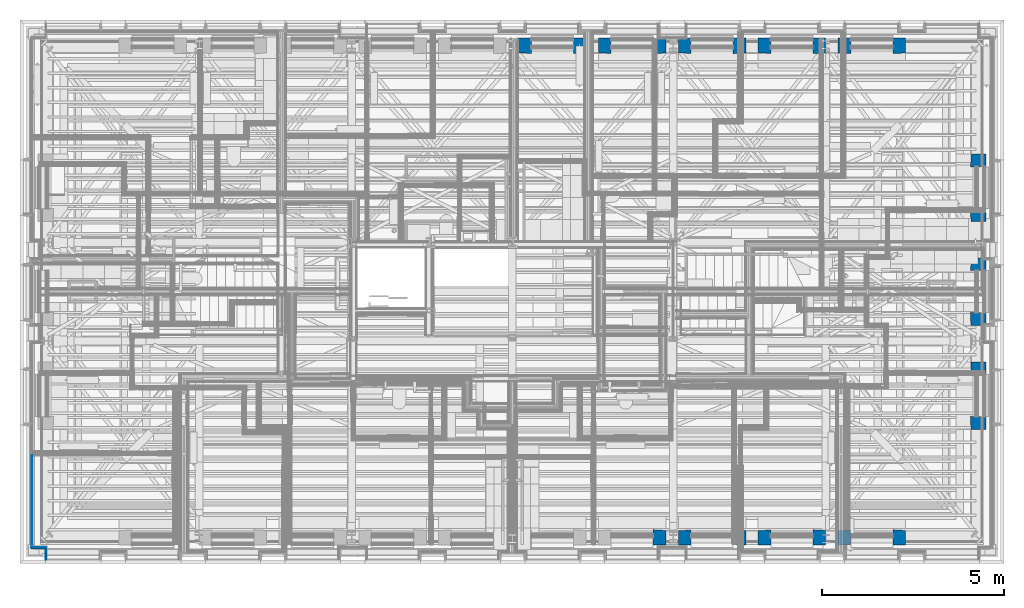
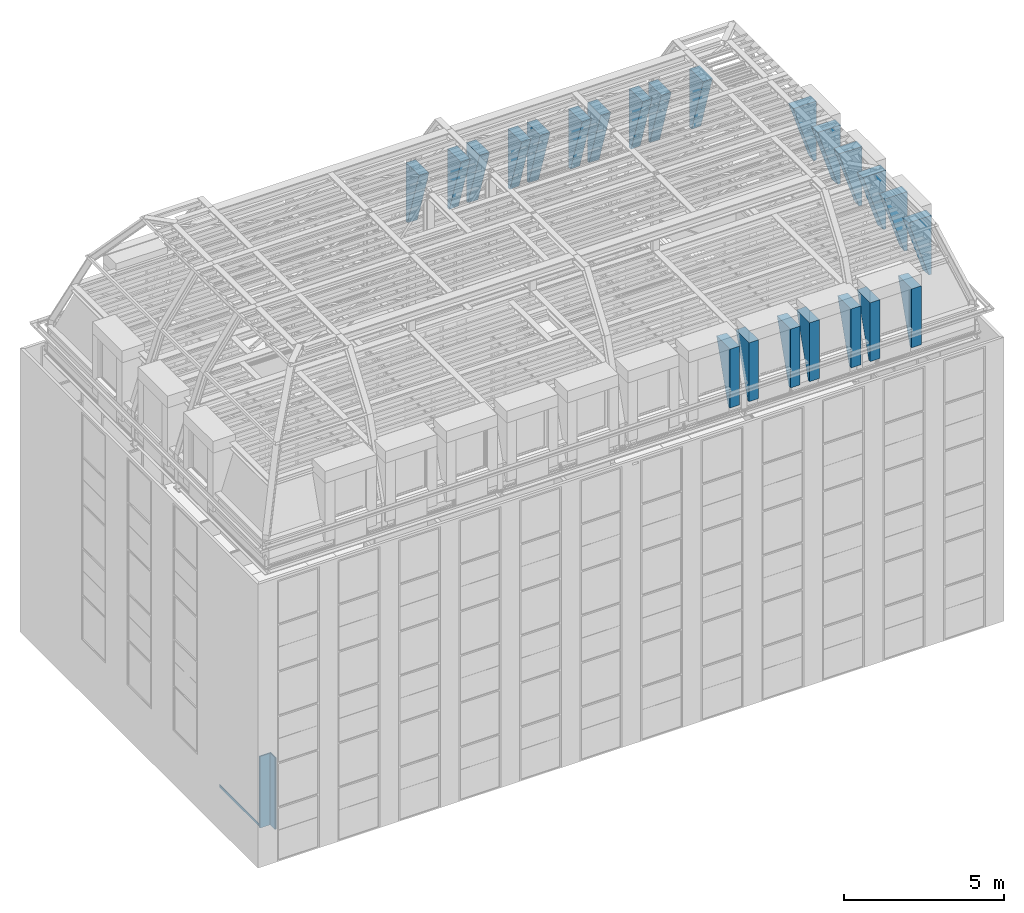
# One storey, part 25 of 183: 23 walls, 5 building element parts, 3 elements without a shape of their own.
"""IFC2X3 building model written with IfcOpenShell, lengths in metres."""

from ifc_helpers import new_model, entity, si_unit, converted_unit, derived_unit, money_unit, direction, frame, frame_2d, origin_with_axes, place, context, subcontext, project, spatial, polyline, rectangle, outline, extrude, faceted_brep, material, type_object, element, aggregate, save


model = new_model("IFC2X3")

# Units and contexts
model_context = context("Model", 3, precision=1e-05, world=origin_with_axes(), true_north=direction((0.0, 1.0)))
body_context = subcontext(model_context, "Body", "Model", "MODEL_VIEW", scale=1.0)
ifc_project = project(units=[si_unit("LENGTHUNIT", "METRE"), si_unit("AREAUNIT", "SQUARE_METRE"), si_unit("VOLUMEUNIT", "CUBIC_METRE"), si_unit("ABSORBEDDOSEUNIT", "GRAY"), si_unit("AMOUNTOFSUBSTANCEUNIT", "MOLE"), si_unit("DOSEEQUIVALENTUNIT", "SIEVERT"), si_unit("ELECTRICCAPACITANCEUNIT", "FARAD"), si_unit("ELECTRICCHARGEUNIT", "COULOMB"), si_unit("ELECTRICCONDUCTANCEUNIT", "SIEMENS"), si_unit("ELECTRICCURRENTUNIT", "AMPERE"), si_unit("ELECTRICRESISTANCEUNIT", "OHM"), si_unit("ELECTRICVOLTAGEUNIT", "VOLT"), si_unit("ENERGYUNIT", "JOULE"), si_unit("FORCEUNIT", "NEWTON"), si_unit("FREQUENCYUNIT", "HERTZ"), si_unit("ILLUMINANCEUNIT", "LUX"), si_unit("INDUCTANCEUNIT", "HENRY"), si_unit("LUMINOUSFLUXUNIT", "LUMEN"), si_unit("LUMINOUSINTENSITYUNIT", "CANDELA"), si_unit("MAGNETICFLUXDENSITYUNIT", "TESLA"), si_unit("MAGNETICFLUXUNIT", "WEBER"), si_unit("MASSUNIT", "GRAM"), converted_unit("PLANEANGLEUNIT", "degree", entity("IfcReal", 0.0174532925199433), si_unit("PLANEANGLEUNIT", "RADIAN"), dimensions=[0, 0, 0, 0, 0, 0, 0]), si_unit("POWERUNIT", "WATT"), si_unit("PRESSUREUNIT", "PASCAL"), si_unit("RADIOACTIVITYUNIT", "BECQUEREL"), si_unit("SOLIDANGLEUNIT", "STERADIAN"), si_unit("THERMODYNAMICTEMPERATUREUNIT", "KELVIN"), si_unit("TIMEUNIT", "SECOND"), derived_unit("ACCELERATIONUNIT", [(si_unit("LENGTHUNIT", "METRE"), 1), (si_unit("TIMEUNIT", "SECOND"), -2)]), derived_unit("ANGULARVELOCITYUNIT", [(converted_unit("PLANEANGLEUNIT", "degree", entity("IfcReal", 0.0174532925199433), si_unit("PLANEANGLEUNIT", "RADIAN"), dimensions=[0, 0, 0, 0, 0, 0, 0]), 1), (si_unit("TIMEUNIT", "SECOND"), -1)]), derived_unit("CURVATUREUNIT", [(converted_unit("PLANEANGLEUNIT", "degree", entity("IfcReal", 0.0174532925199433), si_unit("PLANEANGLEUNIT", "RADIAN"), dimensions=[0, 0, 0, 0, 0, 0, 0]), 1), (si_unit("LENGTHUNIT", "METRE"), -1)]), derived_unit("DYNAMICVISCOSITYUNIT", [(si_unit("PRESSUREUNIT", "PASCAL"), 1), (si_unit("TIMEUNIT", "SECOND"), 1)]), derived_unit("HEATFLUXDENSITYUNIT", [(si_unit("POWERUNIT", "WATT"), 1), (si_unit("LENGTHUNIT", "METRE"), -2)]), derived_unit("HEATINGVALUEUNIT", [(si_unit("ENERGYUNIT", "JOULE"), 1), (si_unit("MASSUNIT", "GRAM"), -1)]), derived_unit("INTEGERCOUNTRATEUNIT", [(si_unit("TIMEUNIT", "SECOND"), -1)]), derived_unit("IONCONCENTRATIONUNIT", [(si_unit("MASSUNIT", "GRAM"), 1), (si_unit("VOLUMEUNIT", "CUBIC_METRE"), -1)]), derived_unit("ISOTHERMALMOISTURECAPACITYUNIT", [(si_unit("VOLUMEUNIT", "CUBIC_METRE"), 1), (si_unit("MASSUNIT", "GRAM"), -1)]), derived_unit("KINEMATICVISCOSITYUNIT", [(si_unit("AREAUNIT", "SQUARE_METRE"), 1), (si_unit("TIMEUNIT", "SECOND"), -1)]), derived_unit("LINEARFORCEUNIT", [(si_unit("FORCEUNIT", "NEWTON"), 1), (si_unit("LENGTHUNIT", "METRE"), -1)]), derived_unit("LINEARMOMENTUNIT", [(si_unit("FORCEUNIT", "NEWTON"), 1), (si_unit("LENGTHUNIT", "METRE"), -1)]), derived_unit("LINEARSTIFFNESSUNIT", [(si_unit("FORCEUNIT", "NEWTON"), 1), (si_unit("LENGTHUNIT", "METRE"), -1)]), derived_unit("LINEARVELOCITYUNIT", [(si_unit("LENGTHUNIT", "METRE"), 1), (si_unit("TIMEUNIT", "SECOND"), -1)]), derived_unit("LUMINOUSINTENSITYDISTRIBUTIONUNIT", [(si_unit("LUMINOUSINTENSITYUNIT", "CANDELA"), 1), (si_unit("LUMINOUSFLUXUNIT", "LUMEN"), -1)]), derived_unit("MASSDENSITYUNIT", [(si_unit("MASSUNIT", "GRAM"), 1), (si_unit("VOLUMEUNIT", "CUBIC_METRE"), -1)]), derived_unit("MASSFLOWRATEUNIT", [(si_unit("MASSUNIT", "GRAM"), 1), (si_unit("TIMEUNIT", "SECOND"), -1)]), derived_unit("MASSPERLENGTHUNIT", [(si_unit("MASSUNIT", "GRAM"), 1), (si_unit("LENGTHUNIT", "METRE"), -1)]), derived_unit("MODULUSOFELASTICITYUNIT", [(si_unit("FORCEUNIT", "NEWTON"), 1), (si_unit("AREAUNIT", "SQUARE_METRE"), -1)]), derived_unit("MODULUSOFLINEARSUBGRADEREACTIONUNIT", [(si_unit("FORCEUNIT", "NEWTON"), 1), (si_unit("LENGTHUNIT", "METRE"), -2)]), derived_unit("MODULUSOFROTATIONALSUBGRADEREACTIONUNIT", [(si_unit("FORCEUNIT", "NEWTON"), 1), (si_unit("LENGTHUNIT", "METRE"), 1)]), derived_unit("MODULUSOFSUBGRADEREACTIONUNIT", [(si_unit("FORCEUNIT", "NEWTON"), 1), (si_unit("VOLUMEUNIT", "CUBIC_METRE"), -1)]), derived_unit("MOISTUREDIFFUSIVITYUNIT", [(si_unit("VOLUMEUNIT", "CUBIC_METRE"), 1), (si_unit("TIMEUNIT", "SECOND"), -1)]), derived_unit("MOLECULARWEIGHTUNIT", [(si_unit("MASSUNIT", "GRAM"), 1), (si_unit("AMOUNTOFSUBSTANCEUNIT", "MOLE"), -1)]), derived_unit("PLANARFORCEUNIT", [(si_unit("FORCEUNIT", "NEWTON"), 1), (si_unit("LENGTHUNIT", "METRE"), -2)]), derived_unit("ROTATIONALFREQUENCYUNIT", [(si_unit("TIMEUNIT", "SECOND"), -1)]), derived_unit("ROTATIONALMASSUNIT", [(si_unit("MASSUNIT", "GRAM"), 1), (si_unit("LENGTHUNIT", "METRE"), 2)]), derived_unit("ROTATIONALSTIFFNESSUNIT", [(si_unit("FORCEUNIT", "NEWTON"), 1), (si_unit("LENGTHUNIT", "METRE"), 1), (converted_unit("PLANEANGLEUNIT", "degree", entity("IfcReal", 0.0174532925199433), si_unit("PLANEANGLEUNIT", "RADIAN"), dimensions=[0, 0, 0, 0, 0, 0, 0]), -1)]), derived_unit("SECTIONAREAINTEGRALUNIT", [(si_unit("LENGTHUNIT", "METRE"), 5)]), derived_unit("SECTIONMODULUSUNIT", [(si_unit("LENGTHUNIT", "METRE"), 3)]), derived_unit("SHEARMODULUSUNIT", [(si_unit("FORCEUNIT", "NEWTON"), 1), (si_unit("AREAUNIT", "SQUARE_METRE"), -1)]), derived_unit("SOUNDPOWERUNIT", [(si_unit("ENERGYUNIT", "JOULE"), 1), (si_unit("TIMEUNIT", "SECOND"), -1)]), derived_unit("SPECIFICHEATCAPACITYUNIT", [(si_unit("FORCEUNIT", "NEWTON"), 1), (si_unit("MASSUNIT", "GRAM"), -1), (si_unit("THERMODYNAMICTEMPERATUREUNIT", "KELVIN"), -1)]), derived_unit("TEMPERATUREGRADIENTUNIT", [(si_unit("THERMODYNAMICTEMPERATUREUNIT", "KELVIN"), 1), (si_unit("LENGTHUNIT", "METRE"), -1)]), derived_unit("THERMALADMITTANCEUNIT", [(si_unit("POWERUNIT", "WATT"), 1), (si_unit("AREAUNIT", "SQUARE_METRE"), -1), (si_unit("THERMODYNAMICTEMPERATUREUNIT", "KELVIN"), -1)]), derived_unit("THERMALCONDUCTANCEUNIT", [(si_unit("POWERUNIT", "WATT"), 1), (si_unit("LENGTHUNIT", "METRE"), -1), (si_unit("THERMODYNAMICTEMPERATUREUNIT", "KELVIN"), -1)]), derived_unit("THERMALEXPANSIONCOEFFICIENTUNIT", [(si_unit("THERMODYNAMICTEMPERATUREUNIT", "KELVIN"), -1)]), derived_unit("THERMALRESISTANCEUNIT", [(si_unit("AREAUNIT", "SQUARE_METRE"), 1), (si_unit("POWERUNIT", "WATT"), -1)]), derived_unit("THERMALTRANSMITTANCEUNIT", [(si_unit("POWERUNIT", "WATT"), 1), (si_unit("AREAUNIT", "SQUARE_METRE"), -1), (si_unit("THERMODYNAMICTEMPERATUREUNIT", "KELVIN"), -1)]), derived_unit("TORQUEUNIT", [(si_unit("FORCEUNIT", "NEWTON"), 1), (si_unit("LENGTHUNIT", "METRE"), 1)]), derived_unit("VAPORPERMEABILITYUNIT", [(si_unit("MASSUNIT", "GRAM"), 1), (si_unit("TIMEUNIT", "SECOND"), -1)]), derived_unit("VOLUMETRICFLOWRATEUNIT", [(si_unit("VOLUMEUNIT", "CUBIC_METRE"), 1), (si_unit("TIMEUNIT", "SECOND"), -1)]), derived_unit("WARPINGCONSTANTUNIT", [(si_unit("LENGTHUNIT", "METRE"), 6)]), derived_unit("WARPINGMOMENTUNIT", [(si_unit("FORCEUNIT", "NEWTON"), 1), (si_unit("LENGTHUNIT", "METRE"), 2)]), money_unit("GBP")], contexts=[model_context])

# Site, building, storey
site_placement = place(None, origin_with_axes())
site = spatial("IfcSite", under=ifc_project, at=site_placement, Name="Site", CompositionType="ELEMENT")
building_placement = place(site_placement, origin_with_axes())
building = spatial("IfcBuilding", under=site, at=building_placement, Name="Building01", CompositionType="ELEMENT")
storey_placement = place(building_placement, frame((0.0, 0.0, 5.15), z_axis=(0.0, 0.0, 1.0), x_axis=(1.0, 0.0, 0.0)))
storey = spatial("IfcBuildingStorey", under=building, at=storey_placement, Name="1F", CompositionType="ELEMENT", Elevation=5.15)

# Walls
ifc_material_1 = material(Name="A_BSUK_Roofs")
wall_type_1 = type_object("IfcWallType", Name="A-Walls-ExternalBlock", PredefinedType="NOTDEFINED")
wall_1_placement = place(storey_placement, frame((17.709976, 0.499939, 10.03), z_axis=(0.0, 0.0, 1.0), x_axis=(0.0, 1.0, 0.0)))
element("IfcWall", 1, at=wall_1_placement, inside=storey, type_object=wall_type_1, material=ifc_material_1, Name="7C", ObjectType="A-Walls-ExternalBlock", context=body_context, shape_type="Brep", body=[
    faceted_brep([(0.094632, 0.0, 0.0), (0.116713, 0.35, 0.0), (0.847783, 0.35, 2.25), (0.825702, 0.0, 2.25), (0.0, 0.0, 0.0), (0.0, 0.35, 0.0), (0.0, 0.0, 2.25), (0.0, 0.35, 2.25)], [[[0, 1, 2, 3]], [[1, 0, 4, 5]], [[0, 3, 6, 4]], [[2, 1, 5, 7]], [[3, 2, 7, 6]], [[5, 4, 6, 7]]]),
])
wall_2_placement = place(storey_placement, frame((20.590024, 0.499939, 10.03), z_axis=(0.0, 0.0, 1.0), x_axis=(0.0, 1.0, 0.0)))
element("IfcWall", 2, at=wall_2_placement, inside=storey, type_object=wall_type_1, material=ifc_material_1, Name="7C", ObjectType="A-Walls-ExternalBlock", context=body_context, shape_type="Brep", body=[
    faceted_brep([(0.110404, 0.0, 0.0), (0.088324, 0.35, 0.0), (0.819393, 0.35, 2.25), (0.841474, 0.0, 2.25), (0.0, 0.0, 0.0), (0.0, 0.35, 0.0), (0.0, 0.0, 2.25), (0.0, 0.35, 2.25)], [[[0, 1, 2, 3]], [[1, 0, 4, 5]], [[0, 3, 6, 4]], [[2, 1, 5, 7]], [[3, 2, 7, 6]], [[5, 4, 6, 7]]]),
])
wall_3_placement = place(storey_placement, frame((22.089976, 0.499939, 10.03), z_axis=(0.0, 0.0, 1.0), x_axis=(0.0, 1.0, 0.0)))
element("IfcWall", 3, at=wall_3_placement, inside=storey, type_object=wall_type_1, material=ifc_material_1, Name="7C", ObjectType="A-Walls-ExternalBlock", context=body_context, shape_type="Brep", body=[
    faceted_brep([(0.094632, 0.0, 0.0), (0.116713, 0.35, 0.0), (0.847783, 0.35, 2.25), (0.825702, 0.0, 2.25), (0.0, 0.0, 0.0), (0.0, 0.35, 0.0), (0.0, 0.0, 2.25), (0.0, 0.35, 2.25)], [[[0, 1, 2, 3]], [[1, 0, 4, 5]], [[0, 3, 6, 4]], [[2, 1, 5, 7]], [[3, 2, 7, 6]], [[5, 4, 6, 7]]]),
])
wall_4_placement = place(storey_placement, frame((22.780024, 0.499939, 10.03), z_axis=(0.0, 0.0, 1.0), x_axis=(0.0, 1.0, 0.0)))
element("IfcWall", 4, at=wall_4_placement, inside=storey, type_object=wall_type_1, material=ifc_material_1, Name="7C", ObjectType="A-Walls-ExternalBlock", context=body_context, shape_type="Brep", body=[
    faceted_brep([(0.110404, 0.0, 0.0), (0.088324, 0.35, 0.0), (0.819393, 0.35, 2.25), (0.841474, 0.0, 2.25), (0.0, 0.0, 0.0), (0.0, 0.35, 0.0), (0.0, 0.0, 2.25), (0.0, 0.35, 2.25)], [[[0, 1, 2, 3]], [[1, 0, 4, 5]], [[0, 3, 6, 4]], [[2, 1, 5, 7]], [[3, 2, 7, 6]], [[5, 4, 6, 7]]]),
])
wall_5_placement = place(storey_placement, frame((24.279976, 0.499939, 10.03), z_axis=(0.0, 0.0, 1.0), x_axis=(0.0, 1.0, 0.0)))
element("IfcWall", 5, at=wall_5_placement, inside=storey, type_object=wall_type_1, material=ifc_material_1, Name="7C", ObjectType="A-Walls-ExternalBlock", context=body_context, shape_type="Brep", body=[
    faceted_brep([(0.094632, 0.0, 0.0), (0.116713, 0.35, 0.0), (0.847783, 0.35, 2.25), (0.825702, 0.0, 2.25), (0.0, 0.0, 0.0), (0.0, 0.35, 0.0), (0.0, 0.0, 2.25), (0.0, 0.35, 2.25)], [[[0, 1, 2, 3]], [[1, 0, 4, 5]], [[0, 3, 6, 4]], [[2, 1, 5, 7]], [[3, 2, 7, 6]], [[5, 4, 6, 7]]]),
])
wall_6_placement = place(storey_placement, frame((18.400024, 0.499939, 10.03), z_axis=(0.0, 0.0, 1.0), x_axis=(0.0, 1.0, 0.0)))
element("IfcWall", 6, at=wall_6_placement, inside=storey, type_object=wall_type_1, material=ifc_material_1, Name="7C", ObjectType="A-Walls-ExternalBlock", context=body_context, shape_type="Brep", body=[
    faceted_brep([(0.110404, 0.0, 0.0), (0.088324, 0.35, 0.0), (0.819393, 0.35, 2.25), (0.841474, 0.0, 2.25), (0.0, 0.0, 0.0), (0.0, 0.35, 0.0), (0.0, 0.0, 2.25), (0.0, 0.35, 2.25)], [[[0, 1, 2, 3]], [[1, 0, 4, 5]], [[0, 3, 6, 4]], [[2, 1, 5, 7]], [[3, 2, 7, 6]], [[5, 4, 6, 7]]]),
])
wall_7_placement = place(storey_placement, frame((19.899976, 0.499939, 10.03), z_axis=(0.0, 0.0, 1.0), x_axis=(0.0, 1.0, 0.0)))
element("IfcWall", 7, at=wall_7_placement, inside=storey, type_object=wall_type_1, material=ifc_material_1, Name="7C", ObjectType="A-Walls-ExternalBlock", context=body_context, shape_type="Brep", body=[
    faceted_brep([(0.094632, 0.0, 0.0), (0.116713, 0.35, 0.0), (0.847783, 0.35, 2.25), (0.825702, 0.0, 2.25), (0.0, 0.0, 0.0), (0.0, 0.35, 0.0), (0.0, 0.0, 2.25), (0.0, 0.35, 2.25)], [[[0, 1, 2, 3]], [[1, 0, 4, 5]], [[0, 3, 6, 4]], [[2, 1, 5, 7]], [[3, 2, 7, 6]], [[5, 4, 6, 7]]]),
])
wall_8_placement = place(storey_placement, frame((14.020024, 14.400096, 10.03), z_axis=(0.0, 0.0, 1.0), x_axis=(0.0, 1.0, 0.0)))
element("IfcWall", 8, at=wall_8_placement, inside=storey, type_object=wall_type_1, material=ifc_material_1, Name="7C", ObjectType="A-Walls-ExternalBlock", context=body_context, shape_type="Brep", body=[
    faceted_brep([(-0.088324, 0.35, 0.0), (-0.110404, 0.0, 0.0), (-0.841474, 0.0, 2.25), (-0.819393, 0.35, 2.25), (0.0, 0.35, 0.0), (0.0, 0.0, 0.0), (0.0, 0.35, 2.25), (0.0, 0.0, 2.25)], [[[0, 1, 2, 3]], [[1, 0, 4, 5]], [[0, 3, 6, 4]], [[2, 1, 5, 7]], [[3, 2, 7, 6]], [[5, 4, 6, 7]]]),
])
wall_9_placement = place(storey_placement, frame((15.519976, 14.400096, 10.03), z_axis=(0.0, 0.0, 1.0), x_axis=(0.0, 1.0, 0.0)))
element("IfcWall", 9, at=wall_9_placement, inside=storey, type_object=wall_type_1, material=ifc_material_1, Name="7C", ObjectType="A-Walls-ExternalBlock", context=body_context, shape_type="Brep", body=[
    faceted_brep([(-0.116713, 0.35, 0.0), (-0.094632, 0.0, 0.0), (-0.825702, 0.0, 2.25), (-0.847783, 0.35, 2.25), (0.0, 0.35, 0.0), (0.0, 0.0, 0.0), (0.0, 0.35, 2.25), (0.0, 0.0, 2.25)], [[[0, 1, 2, 3]], [[1, 0, 4, 5]], [[0, 3, 6, 4]], [[2, 1, 5, 7]], [[3, 2, 7, 6]], [[5, 4, 6, 7]]]),
])
wall_10_placement = place(storey_placement, frame((16.210024, 14.400096, 10.03), z_axis=(0.0, 0.0, 1.0), x_axis=(0.0, 1.0, 0.0)))
element("IfcWall", 10, at=wall_10_placement, inside=storey, type_object=wall_type_1, material=ifc_material_1, Name="7C", ObjectType="A-Walls-ExternalBlock", context=body_context, shape_type="Brep", body=[
    faceted_brep([(-0.088324, 0.35, 0.0), (-0.110404, 0.0, 0.0), (-0.841474, 0.0, 2.25), (-0.819393, 0.35, 2.25), (0.0, 0.35, 0.0), (0.0, 0.0, 0.0), (0.0, 0.35, 2.25), (0.0, 0.0, 2.25)], [[[0, 1, 2, 3]], [[1, 0, 4, 5]], [[0, 3, 6, 4]], [[2, 1, 5, 7]], [[3, 2, 7, 6]], [[5, 4, 6, 7]]]),
])
wall_11_placement = place(storey_placement, frame((17.709976, 14.400096, 10.03), z_axis=(0.0, 0.0, 1.0), x_axis=(0.0, 1.0, 0.0)))
element("IfcWall", 11, at=wall_11_placement, inside=storey, type_object=wall_type_1, material=ifc_material_1, Name="7C", ObjectType="A-Walls-ExternalBlock", context=body_context, shape_type="Brep", body=[
    faceted_brep([(-0.116713, 0.35, 0.0), (-0.094632, 0.0, 0.0), (-0.825702, 0.0, 2.25), (-0.847783, 0.35, 2.25), (0.0, 0.35, 0.0), (0.0, 0.0, 0.0), (0.0, 0.35, 2.25), (0.0, 0.0, 2.25)], [[[0, 1, 2, 3]], [[1, 0, 4, 5]], [[0, 3, 6, 4]], [[2, 1, 5, 7]], [[3, 2, 7, 6]], [[5, 4, 6, 7]]]),
])
wall_12_placement = place(storey_placement, frame((20.590024, 14.400096, 10.03), z_axis=(0.0, 0.0, 1.0), x_axis=(0.0, 1.0, 0.0)))
element("IfcWall", 12, at=wall_12_placement, inside=storey, type_object=wall_type_1, material=ifc_material_1, Name="7C", ObjectType="A-Walls-ExternalBlock", context=body_context, shape_type="Brep", body=[
    faceted_brep([(-0.088324, 0.35, 0.0), (-0.110404, 0.0, 0.0), (-0.841474, 0.0, 2.25), (-0.819393, 0.35, 2.25), (0.0, 0.35, 0.0), (0.0, 0.0, 0.0), (0.0, 0.35, 2.25), (0.0, 0.0, 2.25)], [[[0, 1, 2, 3]], [[1, 0, 4, 5]], [[0, 3, 6, 4]], [[2, 1, 5, 7]], [[3, 2, 7, 6]], [[5, 4, 6, 7]]]),
])
wall_13_placement = place(storey_placement, frame((22.089976, 14.400096, 10.03), z_axis=(0.0, 0.0, 1.0), x_axis=(0.0, 1.0, 0.0)))
element("IfcWall", 13, at=wall_13_placement, inside=storey, type_object=wall_type_1, material=ifc_material_1, Name="7C", ObjectType="A-Walls-ExternalBlock", context=body_context, shape_type="Brep", body=[
    faceted_brep([(-0.116713, 0.35, 0.0), (-0.094632, 0.0, 0.0), (-0.825702, 0.0, 2.25), (-0.847783, 0.35, 2.25), (0.0, 0.35, 0.0), (0.0, 0.0, 0.0), (0.0, 0.35, 2.25), (0.0, 0.0, 2.25)], [[[0, 1, 2, 3]], [[1, 0, 4, 5]], [[0, 3, 6, 4]], [[2, 1, 5, 7]], [[3, 2, 7, 6]], [[5, 4, 6, 7]]]),
])
wall_14_placement = place(storey_placement, frame((22.780024, 14.400096, 10.03), z_axis=(0.0, 0.0, 1.0), x_axis=(0.0, 1.0, 0.0)))
element("IfcWall", 14, at=wall_14_placement, inside=storey, type_object=wall_type_1, material=ifc_material_1, Name="7C", ObjectType="A-Walls-ExternalBlock", context=body_context, shape_type="Brep", body=[
    faceted_brep([(-0.088324, 0.35, 0.0), (-0.110404, 0.0, 0.0), (-0.841474, 0.0, 2.25), (-0.819393, 0.35, 2.25), (0.0, 0.35, 0.0), (0.0, 0.0, 0.0), (0.0, 0.35, 2.25), (0.0, 0.0, 2.25)], [[[0, 1, 2, 3]], [[1, 0, 4, 5]], [[0, 3, 6, 4]], [[2, 1, 5, 7]], [[3, 2, 7, 6]], [[5, 4, 6, 7]]]),
])
wall_15_placement = place(storey_placement, frame((24.279976, 14.400096, 10.03), z_axis=(0.0, 0.0, 1.0), x_axis=(0.0, 1.0, 0.0)))
element("IfcWall", 15, at=wall_15_placement, inside=storey, type_object=wall_type_1, material=ifc_material_1, Name="7C", ObjectType="A-Walls-ExternalBlock", context=body_context, shape_type="Brep", body=[
    faceted_brep([(-0.116713, 0.35, 0.0), (-0.094632, 0.0, 0.0), (-0.825702, 0.0, 2.25), (-0.847783, 0.35, 2.25), (0.0, 0.35, 0.0), (0.0, 0.0, 0.0), (0.0, 0.35, 2.25), (0.0, 0.0, 2.25)], [[[0, 1, 2, 3]], [[1, 0, 4, 5]], [[0, 3, 6, 4]], [[2, 1, 5, 7]], [[3, 2, 7, 6]], [[5, 4, 6, 7]]]),
])
wall_16_placement = place(storey_placement, frame((18.400024, 14.400096, 10.03), z_axis=(0.0, 0.0, 1.0), x_axis=(0.0, 1.0, 0.0)))
element("IfcWall", 16, at=wall_16_placement, inside=storey, type_object=wall_type_1, material=ifc_material_1, Name="7C", ObjectType="A-Walls-ExternalBlock", context=body_context, shape_type="Brep", body=[
    faceted_brep([(-0.088324, 0.35, 0.0), (-0.110404, 0.0, 0.0), (-0.841474, 0.0, 2.25), (-0.819393, 0.35, 2.25), (0.0, 0.35, 0.0), (0.0, 0.0, 0.0), (0.0, 0.35, 2.25), (0.0, 0.0, 2.25)], [[[0, 1, 2, 3]], [[1, 0, 4, 5]], [[0, 3, 6, 4]], [[2, 1, 5, 7]], [[3, 2, 7, 6]], [[5, 4, 6, 7]]]),
])
wall_17_placement = place(storey_placement, frame((19.899976, 14.400096, 10.03), z_axis=(0.0, 0.0, 1.0), x_axis=(0.0, 1.0, 0.0)))
element("IfcWall", 17, at=wall_17_placement, inside=storey, type_object=wall_type_1, material=ifc_material_1, Name="7C", ObjectType="A-Walls-ExternalBlock", context=body_context, shape_type="Brep", body=[
    faceted_brep([(-0.116713, 0.35, 0.0), (-0.094632, 0.0, 0.0), (-0.825702, 0.0, 2.25), (-0.847783, 0.35, 2.25), (0.0, 0.35, 0.0), (0.0, 0.0, 0.0), (0.0, 0.35, 2.25), (0.0, 0.0, 2.25)], [[[0, 1, 2, 3]], [[1, 0, 4, 5]], [[0, 3, 6, 4]], [[2, 1, 5, 7]], [[3, 2, 7, 6]], [[5, 4, 6, 7]]]),
])
wall_18_placement = place(storey_placement, frame((26.480121, 5.174891, 10.03), z_axis=(0.0, 0.0, 1.0), x_axis=(1.0, 0.0, 0.0)))
element("IfcWall", 18, at=wall_18_placement, inside=storey, type_object=wall_type_1, material=ifc_material_1, Name="7C", ObjectType="A-Walls-ExternalBlock", context=body_context, shape_type="Brep", body=[
    faceted_brep([(-0.088324, 0.35, 0.0), (-0.110404, 0.0, 0.0), (-0.841474, 0.0, 2.25), (-0.819393, 0.35, 2.25), (0.0, 0.35, 0.0), (0.0, 0.0, 0.0), (0.0, 0.35, 2.25), (0.0, 0.0, 2.25)], [[[0, 1, 2, 3]], [[1, 0, 4, 5]], [[0, 3, 6, 4]], [[2, 1, 5, 7]], [[3, 2, 7, 6]], [[5, 4, 6, 7]]]),
])
wall_19_placement = place(storey_placement, frame((26.480121, 3.674939, 10.03), z_axis=(0.0, 0.0, 1.0), x_axis=(1.0, 0.0, 0.0)))
element("IfcWall", 19, at=wall_19_placement, inside=storey, type_object=wall_type_1, material=ifc_material_1, Name="7C", ObjectType="A-Walls-ExternalBlock", context=body_context, shape_type="Brep", body=[
    faceted_brep([(-0.116713, 0.35, 0.0), (-0.094632, 0.0, 0.0), (-0.825702, 0.0, 2.25), (-0.847783, 0.35, 2.25), (0.0, 0.35, 0.0), (0.0, 0.0, 0.0), (0.0, 0.35, 2.25), (0.0, 0.0, 2.25)], [[[0, 1, 2, 3]], [[1, 0, 4, 5]], [[0, 3, 6, 4]], [[2, 1, 5, 7]], [[3, 2, 7, 6]], [[5, 4, 6, 7]]]),
])
wall_20_placement = place(storey_placement, frame((26.480121, 8.024891, 10.03), z_axis=(0.0, 0.0, 1.0), x_axis=(1.0, 0.0, 0.0)))
element("IfcWall", 20, at=wall_20_placement, inside=storey, type_object=wall_type_1, material=ifc_material_1, Name="7C", ObjectType="A-Walls-ExternalBlock", context=body_context, shape_type="Brep", body=[
    faceted_brep([(-0.088324, 0.35, 0.0), (-0.110404, 0.0, 0.0), (-0.841474, 0.0, 2.25), (-0.819393, 0.35, 2.25), (0.0, 0.35, 0.0), (0.0, 0.0, 0.0), (0.0, 0.35, 2.25), (0.0, 0.0, 2.25)], [[[0, 1, 2, 3]], [[1, 0, 4, 5]], [[0, 3, 6, 4]], [[2, 1, 5, 7]], [[3, 2, 7, 6]], [[5, 4, 6, 7]]]),
])
wall_21_placement = place(storey_placement, frame((26.480121, 6.524939, 10.03), z_axis=(0.0, 0.0, 1.0), x_axis=(1.0, 0.0, 0.0)))
element("IfcWall", 21, at=wall_21_placement, inside=storey, type_object=wall_type_1, material=ifc_material_1, Name="7C", ObjectType="A-Walls-ExternalBlock", context=body_context, shape_type="Brep", body=[
    faceted_brep([(-0.116713, 0.35, 0.0), (-0.094632, 0.0, 0.0), (-0.825702, 0.0, 2.25), (-0.847783, 0.35, 2.25), (0.0, 0.35, 0.0), (0.0, 0.0, 0.0), (0.0, 0.35, 2.25), (0.0, 0.0, 2.25)], [[[0, 1, 2, 3]], [[1, 0, 4, 5]], [[0, 3, 6, 4]], [[2, 1, 5, 7]], [[3, 2, 7, 6]], [[5, 4, 6, 7]]]),
])
wall_22_placement = place(storey_placement, frame((26.480121, 10.874891, 10.03), z_axis=(0.0, 0.0, 1.0), x_axis=(1.0, 0.0, 0.0)))
element("IfcWall", 22, at=wall_22_placement, inside=storey, type_object=wall_type_1, material=ifc_material_1, Name="7C", ObjectType="A-Walls-ExternalBlock", context=body_context, shape_type="Brep", body=[
    faceted_brep([(-0.088324, 0.35, 0.0), (-0.110404, 0.0, 0.0), (-0.841474, 0.0, 2.25), (-0.819393, 0.35, 2.25), (0.0, 0.35, 0.0), (0.0, 0.0, 0.0), (0.0, 0.35, 2.25), (0.0, 0.0, 2.25)], [[[0, 1, 2, 3]], [[1, 0, 4, 5]], [[0, 3, 6, 4]], [[2, 1, 5, 7]], [[3, 2, 7, 6]], [[5, 4, 6, 7]]]),
])
wall_23_placement = place(storey_placement, frame((26.480121, 9.374939, 10.03), z_axis=(0.0, 0.0, 1.0), x_axis=(1.0, 0.0, 0.0)))
element("IfcWall", 23, at=wall_23_placement, inside=storey, type_object=wall_type_1, material=ifc_material_1, Name="7C", ObjectType="A-Walls-ExternalBlock", context=body_context, shape_type="Brep", body=[
    faceted_brep([(-0.116713, 0.35, 0.0), (-0.094632, 0.0, 0.0), (-0.825702, 0.0, 2.25), (-0.847783, 0.35, 2.25), (0.0, 0.35, 0.0), (0.0, 0.0, 0.0), (0.0, 0.35, 2.25), (0.0, 0.0, 2.25)], [[[0, 1, 2, 3]], [[1, 0, 4, 5]], [[0, 3, 6, 4]], [[2, 1, 5, 7]], [[3, 2, 7, 6]], [[5, 4, 6, 7]]]),
])

# Wall, building element part
wall_type_2 = type_object("IfcWallType", Name="SHE_A-Walls_Type06d_ExternalWallInsulation_48mm", PredefinedType="NOTDEFINED")
wall_24_placement = place(storey_placement, frame((0.27, 3.81018, 0.0), z_axis=(0.0, 0.0, 1.0), x_axis=(0.0, -1.0, 0.0)))
wall_24 = element("IfcWall", 24, at=wall_24_placement, inside=storey, type_object=wall_type_2, Name="6D", ObjectType="SHE_A-Walls_Type06d_ExternalWallInsulation_48mm")
ifc_material_2 = material(Name="A_BSUK_Walls_Timber")
building_element_part_1_placement = place(wall_24_placement, origin_with_axes())
building_element_part_1 = element("IfcBuildingElementPart", 25, at=building_element_part_1_placement, material=ifc_material_2, Name="4", context=body_context, shape_type="SweptSolid", body=[
    extrude(rectangle(XDim=2.507286, YDim=0.015, at=frame_2d((2.093537, 0.0555), x_axis=(-1.0, 0.0))), frame((0.0, 0.0, 0.015), z_axis=(0.0, 0.0, 1.0), x_axis=(1.0, 0.0, 0.0)), (0.0, 0.0, 1.0), 0.1),
])
aggregate(wall_24, [building_element_part_1])

# Wall, building element parts
wall_25_placement = place(storey_placement, frame((0.306, 0.4, 0.0), z_axis=(0.0, 0.0, 1.0), x_axis=(1.0, 0.0, 0.0)))
wall_25 = element("IfcWall", 26, at=wall_25_placement, inside=storey, type_object=wall_type_2, Name="6D", ObjectType="SHE_A-Walls_Type06d_ExternalWallInsulation_48mm")
ifc_material_3 = material(Name="A_BSUK_Insulation")
placement_1 = place(wall_25_placement, origin_with_axes())
building_element_part_2 = element("IfcBuildingElementPart", 27, at=placement_1, material=ifc_material_3, Name="1", context=body_context, shape_type="SweptSolid", body=[
    extrude(rectangle(XDim=0.371, YDim=0.036, at=frame_2d((0.1855, 0.018), x_axis=(-1.0, 0.0))), origin_with_axes(), (0.0, 0.0, 1.0), 2.74),
])
ifc_material_4 = material(Name="A_BSUK_WallInternal_Finishes_Plasterboard")
building_element_part_3 = element("IfcBuildingElementPart", 28, at=placement_1, material=ifc_material_4, Name="2", context=body_context, shape_type="SweptSolid", body=[
    extrude(outline(polyline([(0.419, 0.048), (-0.001, 0.048), (-0.001, 0.035), (0.406, 0.035), (0.419, 0.048)])), origin_with_axes(), (0.0, 0.0, 1.0), 2.74),
])
aggregate(wall_25, [building_element_part_2, building_element_part_3])

wall_26_placement = place(storey_placement, frame((0.677, 0.436, 0.0), z_axis=(0.0, 0.0, 1.0), x_axis=(0.0, -1.0, 0.0)))
wall_26 = element("IfcWall", 29, at=wall_26_placement, inside=storey, type_object=wall_type_2, Name="6D", ObjectType="SHE_A-Walls_Type06d_ExternalWallInsulation_48mm")
placement_2 = place(wall_26_placement, origin_with_axes())
building_element_part_4 = element("IfcBuildingElementPart", 30, at=placement_2, material=ifc_material_3, Name="1", context=body_context, shape_type="SweptSolid", body=[
    extrude(rectangle(XDim=0.036, YDim=0.336, at=frame_2d((0.168, 0.018), x_axis=(0.0, -1.0))), origin_with_axes(), (0.0, 0.0, 1.0), 2.74),
])
building_element_part_5 = element("IfcBuildingElementPart", 31, at=placement_2, material=ifc_material_4, Name="2", context=body_context, shape_type="SweptSolid", body=[
    extrude(outline(polyline([(-0.012, 0.048), (0.001, 0.035), (0.336, 0.035), (0.336, 0.048), (-0.012, 0.048)])), origin_with_axes(), (0.0, 0.0, 1.0), 2.74),
])
aggregate(wall_26, [building_element_part_4, building_element_part_5])

save(model, "model.ifc")
